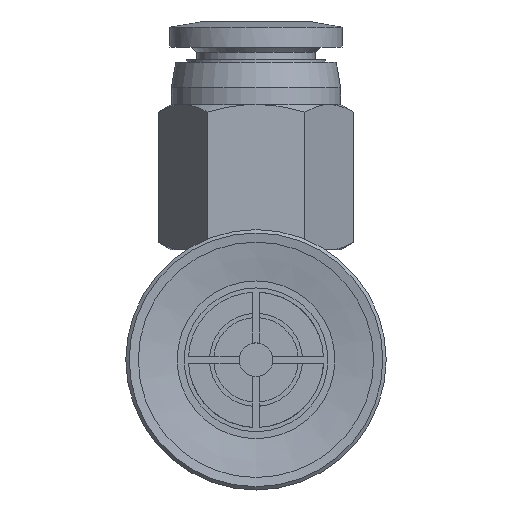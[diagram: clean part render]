
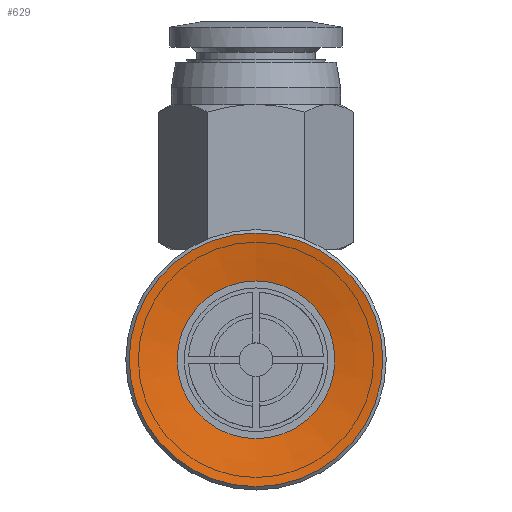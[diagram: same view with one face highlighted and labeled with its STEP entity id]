
A CAD part, front view. The second image highlights one B-rep face of the part: STEP entity #629.
In plain terms, the highlighted conical face has half-angle 80 degrees and reference radius 4.664 mm.
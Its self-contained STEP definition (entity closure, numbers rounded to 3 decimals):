
#629=ADVANCED_FACE('',(#1074,#1075),#1076,.F.);
#1074=FACE_BOUND('',#1768,.T.);
#1075=FACE_OUTER_BOUND('',#1769,.T.);
#1076=CONICAL_SURFACE('',#1770,4.664,1.396);
#1768=EDGE_LOOP('',(#2983));
#1769=EDGE_LOOP('',(#2984));
#1770=AXIS2_PLACEMENT_3D('',#2985,#2986,#2987);
#2983=ORIENTED_EDGE('',*,*,#3497,.F.);
#2984=ORIENTED_EDGE('',*,*,#3498,.T.);
#2985=CARTESIAN_POINT('',(0.0,0.5,0.0));
#2986=DIRECTION('',(-0.0,-1.0,0.));
#2987=DIRECTION('',(0.0,0.,-1.0));
#3497=EDGE_CURVE('',#4110,#4110,#4111,.T.);
#3498=EDGE_CURVE('',#4112,#4112,#4113,.T.);
#4110=VERTEX_POINT('',#5545);
#4111=CIRCLE('',#5546,4.664);
#4112=VERTEX_POINT('',#5547);
#4113=CIRCLE('',#5548,7.5);
#5545=CARTESIAN_POINT('',(0.0,0.5,-4.664));
#5546=AXIS2_PLACEMENT_3D('',#6143,#6144,#6145);
#5547=CARTESIAN_POINT('',(0.0,0.,-7.5));
#5548=AXIS2_PLACEMENT_3D('',#6146,#6147,#6148);
#6143=CARTESIAN_POINT('',(0.0,0.5,0.0));
#6144=DIRECTION('',(0.0,-1.0,0.));
#6145=DIRECTION('',(0.0,0.,-1.0));
#6146=CARTESIAN_POINT('',(0.0,0.0,0.0));
#6147=DIRECTION('',(0.0,-1.0,0.));
#6148=DIRECTION('',(0.0,0.,-1.0));
